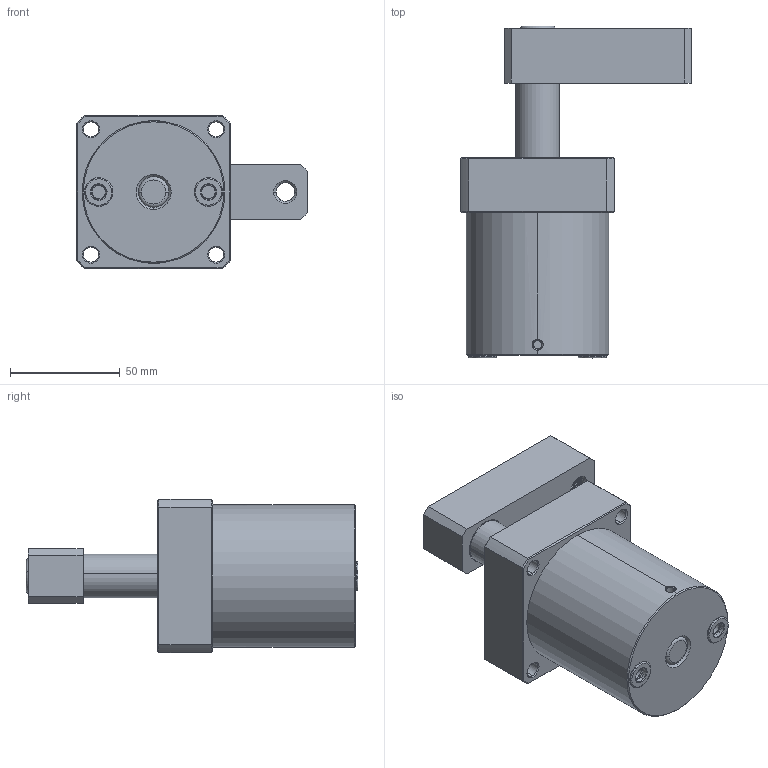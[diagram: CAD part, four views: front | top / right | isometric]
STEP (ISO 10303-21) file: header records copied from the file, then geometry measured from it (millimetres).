
FILE_DESCRIPTION (( 'STEP AP203' ), '1' );
FILE_NAME ('ASC-FA50SR法兰型单臂空压转角缸三维图.STEP', '2013-09-23T02:44:33', ( '微软用户' ), ( '微软中国' ), 'SwSTEP 2.0', 'SolidWorks 2012', '' );
FILE_SCHEMA (( 'CONFIG_CONTROL_DESIGN' ));
Length unit declared in the file: millimetre
Products named in the file (13): ASC-FA50SR法兰型单臂空压转角缸三维图; Hexagon socket head cap screws GB_GB_FASTENER_SCREWS_HSHCS M10X25-S; 揤旋34; 騵艦遠45345412; 活塞杆密封142143212; 活塞杆5235; 粣蚚猾442422; parallel pins unhardening steel gb_GB_CONNECTING_PIECE_PIN_PPUS 4X40; s裝234; 滅鳥猾11213432211; 1-8黑芛413311; ヶ裔2214332; 掛极32325
Assembly tree (13 placements, depth 2):
  ASC-FA50SR法兰型单臂空压转角缸三维图
    掛极32325
    ヶ裔2214332
    1-8黑芛413311  x2
    滅鳥猾11213432211
    s裝234
    parallel pins unhardening steel gb_GB_CONNECTING_PIECE_PIN_PPUS 4X40
    粣蚚猾442422
    活塞杆5235
    活塞杆密封142143212
    騵艦遠45345412
    揤旋34
    Hexagon socket head cap screws GB_GB_FASTENER_SCREWS_HSHCS M10X25-S
Bounding box: 105 x 151.2 x 70 mm (x, y, z)
Volume: 328899.3 mm3; surface area: 102021 mm2
Topology: 14 solids, 14 shells, 821 faces, 1900 edges, 1131 vertices
Faces by surface type: cylinder 356, cone 226, plane 106, torus 94, bspline 39
Entity records: 37596 total; most frequent: CARTESIAN_POINT 18958, ORIENTED_EDGE 3696, DIRECTION 3632, EDGE_CURVE 1848, AXIS2_PLACEMENT_3D 1497, VERTEX_POINT 1105, EDGE_LOOP 867, FACE_OUTER_BOUND 798
